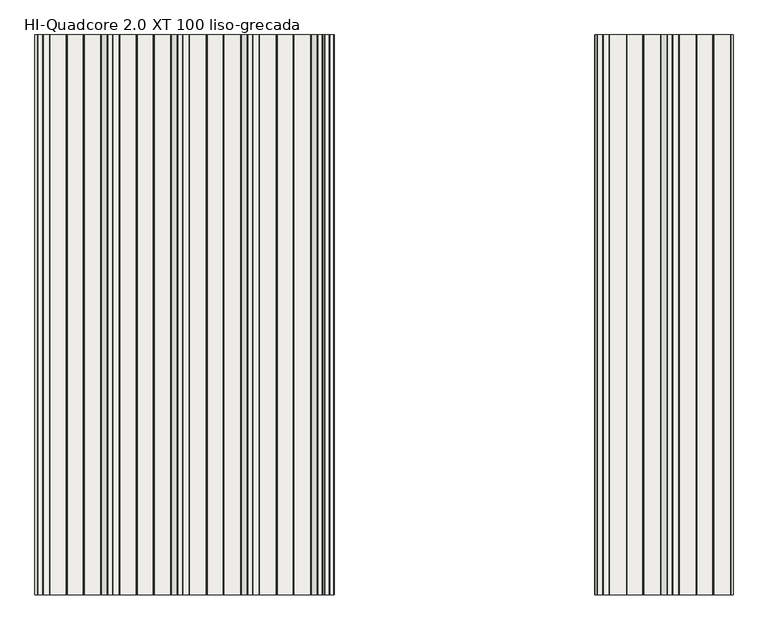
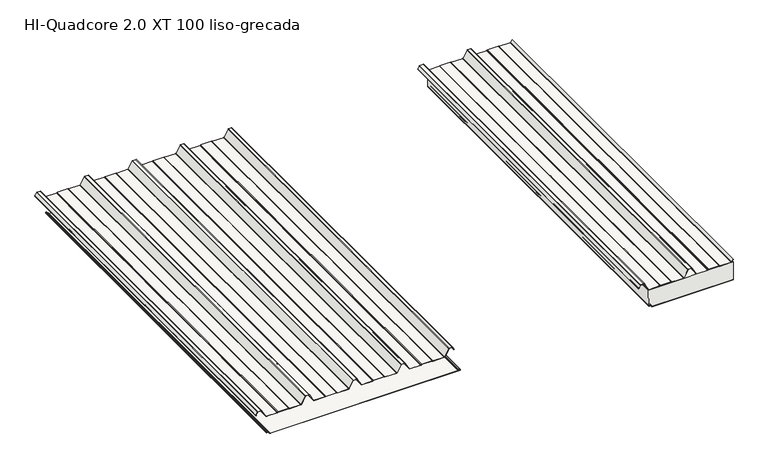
"""IFC4 building model written with IfcOpenShell, lengths in millimetres: slab geometry, HI_QuadCore2.0XT-XT DUAL : HI-Quadcore 2.0 XT 100 liso-grecada."""

from ifc_helpers import new_model, si_unit, point, frame, frame_2d, origin, place, context, project, spatial, polyline, circle_curve, trimmed, segment, composite_curve, outline, extrude, source, transform, mapped, element, save
from ifc_brep_helpers import plane_surface, cylinder_surface, revolved_surface, advanced_brep


def hi_quadcore_2_0_xt_100_liso_grecada_bb893d0f(model_context):
    return source(origin(), model_context, "Body", "SolidModel", [
        extrude(outline(composite_curve([segment(polyline([(138.1649405, 2138.5141429), (123.6579587, 2130.3539656)]), True, "CONTINUOUS"), segment(trimmed(circle_curve(frame_2d((123.0451321, 2131.443435)), 1.25), [point((123.6579587, 2130.3539656))], [point((122.689225, 2132.6416963))], False, "CARTESIAN"), True, "CONTINUOUS"), segment(polyline([(122.689225, 2132.6416963), (125.7359115, 2133.437141), (125.9380053, 2132.663088), (122.9074492, 2131.8718547)]), True, "CONTINUOUS"), segment(trimmed(circle_curve(frame_2d((123.0451321, 2131.443435)), 0.45), [point((122.9074492, 2131.8718547))], [point((123.2657497, 2131.051226))], True, "CARTESIAN"), True, "CONTINUOUS"), segment(polyline([(123.2657497, 2131.051226), (137.7727315, 2139.2114033)]), True, "CONTINUOUS"), segment(trimmed(circle_curve(frame_2d((136.4, 2141.6518148)), 2.8), [point((137.7727315, 2139.2114033))], [point((139.2, 2141.6518148))], True, "CARTESIAN"), True, "CONTINUOUS"), segment(polyline([(139.2, 2141.6518148), (139.2, 2158.9311117)]), True, "CONTINUOUS"), segment(trimmed(circle_curve(frame_2d((136.4, 2158.9311117)), 2.8), [point((139.2, 2158.9311117))], [point((137.5457267, 2161.4859719))], True, "CARTESIAN"), True, "CONTINUOUS"), segment(polyline([(137.5457267, 2161.4859719), (101.2048889, 2181.3052775)]), True, "CONTINUOUS"), segment(trimmed(circle_curve(frame_2d((103.0, 2184.6545425)), 3.8), [point((101.2048889, 2181.3052775))], [point((99.2, 2184.6545425))], False, "CARTESIAN"), True, "CONTINUOUS"), segment(polyline([(99.2, 2184.6545425), (99.2, 2242.4489557)]), True, "CONTINUOUS"), segment(trimmed(circle_curve(frame_2d((103.0, 2242.4489557)), 3.8), [point((99.2, 2242.4489557))], [point((99.6973596, 2244.328468))], False, "CARTESIAN"), True, "CONTINUOUS"), segment(polyline([(99.6973596, 2244.328468), (100.912055, 2246.4629056)]), True, "CONTINUOUS"), segment(trimmed(circle_curve(frame_2d((99.0, 2247.5510443)), 2.2), [point((100.912055, 2246.4629056))], [point((101.2, 2247.5510443))], True, "CARTESIAN"), True, "CONTINUOUS"), segment(polyline([(101.2, 2247.5510443), (101.2, 2302.4489557)]), True, "CONTINUOUS"), segment(trimmed(circle_curve(frame_2d((99.0, 2302.4489557)), 2.2), [point((101.2, 2302.4489557))], [point((100.912055, 2303.5370944))], True, "CARTESIAN"), True, "CONTINUOUS"), segment(polyline([(100.912055, 2303.5370944), (99.6973596, 2305.671532)]), True, "CONTINUOUS"), segment(trimmed(circle_curve(frame_2d((103.0, 2307.5510443)), 3.8), [point((99.6973596, 2305.671532))], [point((99.2, 2307.5510443))], False, "CARTESIAN"), True, "CONTINUOUS"), segment(polyline([(99.2, 2307.5510443), (99.2, 2365.7454575)]), True, "CONTINUOUS"), segment(trimmed(circle_curve(frame_2d((103.0, 2365.7454575)), 3.8), [point((99.2, 2365.7454575))], [point((101.1370073, 2369.0574446))], False, "CARTESIAN"), True, "CONTINUOUS"), segment(polyline([(101.1370073, 2369.0574446), (138.0785747, 2389.8370763)]), True, "CONTINUOUS"), segment(trimmed(circle_curve(frame_2d((137.0, 2391.7545425)), 2.2), [point((138.0785747, 2389.8370763))], [point((139.2, 2391.7545425))], True, "CARTESIAN"), True, "CONTINUOUS"), segment(polyline([(139.2, 2391.7545425), (139.2, 2408.2454575)]), True, "CONTINUOUS"), segment(trimmed(circle_curve(frame_2d((137.0, 2408.2454575)), 2.2), [point((139.2, 2408.2454575))], [point((138.0785747, 2410.1629237))], True, "CARTESIAN"), True, "CONTINUOUS"), segment(polyline([(138.0785747, 2410.1629237), (101.1370073, 2430.9425554)]), True, "CONTINUOUS"), segment(trimmed(circle_curve(frame_2d((103.0, 2434.2545425)), 3.8), [point((101.1370073, 2430.9425554))], [point((99.2, 2434.2545425))], False, "CARTESIAN"), True, "CONTINUOUS"), segment(polyline([(99.2, 2434.2545425), (99.2, 2492.4489557)]), True, "CONTINUOUS"), segment(trimmed(circle_curve(frame_2d((103.0, 2492.4489557)), 3.8), [point((99.2, 2492.4489557))], [point((99.6973596, 2494.328468))], False, "CARTESIAN"), True, "CONTINUOUS"), segment(polyline([(99.6973596, 2494.328468), (100.912055, 2496.4629056)]), True, "CONTINUOUS"), segment(trimmed(circle_curve(frame_2d((99.0, 2497.5510443)), 2.2), [point((100.912055, 2496.4629056))], [point((101.2, 2497.5510443))], True, "CARTESIAN"), True, "CONTINUOUS"), segment(polyline([(101.2, 2497.5510443), (101.2, 2552.4489557)]), True, "CONTINUOUS"), segment(trimmed(circle_curve(frame_2d((99.0, 2552.4489557)), 2.2), [point((101.2, 2552.4489557))], [point((100.912055, 2553.5370944))], True, "CARTESIAN"), True, "CONTINUOUS"), segment(polyline([(100.912055, 2553.5370944), (99.6973596, 2555.671532)]), True, "CONTINUOUS"), segment(trimmed(circle_curve(frame_2d((103.0, 2557.5510443)), 3.8), [point((99.6973596, 2555.671532))], [point((99.2, 2557.5510443))], False, "CARTESIAN"), True, "CONTINUOUS"), segment(polyline([(99.2, 2557.5510443), (99.2, 2615.7454575)]), True, "CONTINUOUS"), segment(trimmed(circle_curve(frame_2d((103.0, 2615.7454575)), 3.8), [point((99.2, 2615.7454575))], [point((101.1370073, 2619.0574446))], False, "CARTESIAN"), True, "CONTINUOUS"), segment(polyline([(101.1370073, 2619.0574446), (111.5614334, 2624.9211843), (113.1932165, 2624.9211843), (101.5292163, 2618.3601842)]), True, "CONTINUOUS"), segment(trimmed(circle_curve(frame_2d((103.0, 2615.7454575)), 3.0), [point((101.5292163, 2618.3601842))], [point((100.0, 2615.7454575))], True, "CARTESIAN"), True, "CONTINUOUS"), segment(polyline([(100.0, 2615.7454575), (100.0, 2557.5510443)]), True, "CONTINUOUS"), segment(trimmed(circle_curve(frame_2d((103.0, 2557.5510443)), 3.0), [point((100.0, 2557.5510443))], [point((100.3926523, 2556.0672188))], True, "CARTESIAN"), True, "CONTINUOUS"), segment(polyline([(100.3926523, 2556.0672188), (101.6073477, 2553.9327812)]), True, "CONTINUOUS"), segment(trimmed(circle_curve(frame_2d((99.0, 2552.4489557)), 3.0), [point((101.6073477, 2553.9327812))], [point((102.0, 2552.4489557))], False, "CARTESIAN"), True, "CONTINUOUS"), segment(polyline([(102.0, 2552.4489557), (102.0, 2497.5510443)]), True, "CONTINUOUS"), segment(trimmed(circle_curve(frame_2d((99.0, 2497.5510443)), 3.0), [point((102.0, 2497.5510443))], [point((101.6073477, 2496.0672188))], False, "CARTESIAN"), True, "CONTINUOUS"), segment(polyline([(101.6073477, 2496.0672188), (100.3926523, 2493.9327812)]), True, "CONTINUOUS"), segment(trimmed(circle_curve(frame_2d((103.0, 2492.4489557)), 3.0), [point((100.3926523, 2493.9327812))], [point((100.0, 2492.4489557))], True, "CARTESIAN"), True, "CONTINUOUS"), segment(polyline([(100.0, 2492.4489557), (100.0, 2434.2545425)]), True, "CONTINUOUS"), segment(trimmed(circle_curve(frame_2d((103.0, 2434.2545425)), 3.0), [point((100.0, 2434.2545425))], [point((101.5292163, 2431.6398158))], True, "CARTESIAN"), True, "CONTINUOUS"), segment(polyline([(101.5292163, 2431.6398158), (138.4707837, 2410.8601842)]), True, "CONTINUOUS"), segment(trimmed(circle_curve(frame_2d((137.0, 2408.2454575)), 3.0), [point((138.4707837, 2410.8601842))], [point((140.0, 2408.2454575))], False, "CARTESIAN"), True, "CONTINUOUS"), segment(polyline([(140.0, 2408.2454575), (140.0, 2391.7545425)]), True, "CONTINUOUS"), segment(trimmed(circle_curve(frame_2d((137.0, 2391.7545425)), 3.0), [point((140.0, 2391.7545425))], [point((138.4707837, 2389.1398158))], False, "CARTESIAN"), True, "CONTINUOUS"), segment(polyline([(138.4707837, 2389.1398158), (101.5292163, 2368.3601842)]), True, "CONTINUOUS"), segment(trimmed(circle_curve(frame_2d((103.0, 2365.7454575)), 3.0), [point((101.5292163, 2368.3601842))], [point((100.0, 2365.7454575))], True, "CARTESIAN"), True, "CONTINUOUS"), segment(polyline([(100.0, 2365.7454575), (100.0, 2307.5510443)]), True, "CONTINUOUS"), segment(trimmed(circle_curve(frame_2d((103.0, 2307.5510443)), 3.0), [point((100.0, 2307.5510443))], [point((100.3926523, 2306.0672188))], True, "CARTESIAN"), True, "CONTINUOUS"), segment(polyline([(100.3926523, 2306.0672188), (101.6073477, 2303.9327812)]), True, "CONTINUOUS"), segment(trimmed(circle_curve(frame_2d((99.0, 2302.4489557)), 3.0), [point((101.6073477, 2303.9327812))], [point((102.0, 2302.4489557))], False, "CARTESIAN"), True, "CONTINUOUS"), segment(polyline([(102.0, 2302.4489557), (102.0, 2247.5510443)]), True, "CONTINUOUS"), segment(trimmed(circle_curve(frame_2d((99.0, 2247.5510443)), 3.0), [point((102.0, 2247.5510443))], [point((101.6073477, 2246.0672188))], False, "CARTESIAN"), True, "CONTINUOUS"), segment(polyline([(101.6073477, 2246.0672188), (100.3926523, 2243.9327812)]), True, "CONTINUOUS"), segment(trimmed(circle_curve(frame_2d((103.0, 2242.4489557)), 3.0), [point((100.3926523, 2243.9327812))], [point((100.0, 2242.4489557))], True, "CARTESIAN"), True, "CONTINUOUS"), segment(polyline([(100.0, 2242.4489557), (100.0, 2184.6545425)]), True, "CONTINUOUS"), segment(trimmed(circle_curve(frame_2d((103.0, 2184.6545425)), 3.0), [point((100.0, 2184.6545425))], [point((101.5852209, 2182.0090935))], True, "CARTESIAN"), True, "CONTINUOUS"), segment(polyline([(101.5852209, 2182.0090935), (137.9031732, 2162.2022691)]), True, "CONTINUOUS"), segment(trimmed(circle_curve(frame_2d((136.4, 2158.9311117)), 3.6), [point((137.9031732, 2162.2022691))], [point((140.0, 2158.9311117))], False, "CARTESIAN"), True, "CONTINUOUS"), segment(polyline([(140.0, 2158.9311117), (140.0, 2141.6518148)]), True, "CONTINUOUS"), segment(trimmed(circle_curve(frame_2d((136.4, 2141.6518148)), 3.6), [point((140.0, 2141.6518148))], [point((138.1649405, 2138.5141429))], False, "CARTESIAN"), True, "CONTINUOUS")], self_intersect=False)), frame((0.0, 0.0, 0.0), z_axis=(0.0, 1.0, 0.0), x_axis=(0.0, 0.0, 1.0)), (0.0, 0.0, 1.0), 2000.0),
        extrude(outline(composite_curve([segment(trimmed(circle_curve(frame_2d((11.9759207, 2187.8456418)), 2.0), [point((13.390095, 2186.4313891))], [point((11.9758652, 2185.8456418))], False, "CARTESIAN"), True, "CONTINUOUS"), segment(polyline([(11.9758652, 2185.8456418), (8.333684, 2185.8457428)]), True, "CONTINUOUS"), segment(trimmed(circle_curve(frame_2d((8.3337394, 2187.8457428)), 2.0), [point((8.333684, 2185.8457428))], [point((6.3390802, 2187.6996787))], False, "CARTESIAN"), True, "CONTINUOUS"), segment(polyline([(6.3390802, 2187.6996787), (5.5769243, 2198.1077232)]), True, "CONTINUOUS"), segment(trimmed(circle_curve(frame_2d((3.5874027, 2197.9032632)), 2.0), [point((5.5769243, 2198.1077232))], [point((3.5874582, 2199.9032632))], True, "CARTESIAN"), True, "CONTINUOUS"), segment(polyline([(3.5874582, 2199.9032632), (1.9861383, 2199.9033076)]), True, "CONTINUOUS"), segment(trimmed(circle_curve(frame_2d((1.9861938, 2201.9033076)), 2.0), [point((1.9861383, 2199.9033076))], [point((-0.0138062, 2201.903363))], False, "CARTESIAN"), True, "CONTINUOUS"), segment(polyline([(-0.0138062, 2201.903363), (-0.0020789, 2624.9211843), (0.7979211, 2624.9211843), (0.7861938, 2201.9033408)]), True, "CONTINUOUS"), segment(trimmed(circle_curve(frame_2d((1.9861938, 2201.9033076)), 1.2), [point((0.7861938, 2201.9033408))], [point((1.9861605, 2200.7033076))], True, "CARTESIAN"), True, "CONTINUOUS"), segment(polyline([(1.9861605, 2200.7033076), (3.5874804, 2200.7032632)]), True, "CONTINUOUS"), segment(trimmed(circle_curve(frame_2d((3.5874027, 2197.9032632)), 2.8), [point((3.5874804, 2200.7032632))], [point((6.3740035, 2198.1768616))], False, "CARTESIAN"), True, "CONTINUOUS"), segment(polyline([(6.3740035, 2198.1768616), (7.1369439, 2187.7581044)]), True, "CONTINUOUS"), segment(trimmed(circle_curve(frame_2d((8.3337394, 2187.8457428)), 1.2), [point((7.1369439, 2187.7581044))], [point((8.3337062, 2186.6457428))], True, "CARTESIAN"), True, "CONTINUOUS"), segment(polyline([(8.3337062, 2186.6457428), (11.9758874, 2186.6456418)]), True, "CONTINUOUS"), segment(trimmed(circle_curve(frame_2d((11.9759207, 2187.8456418)), 1.2), [point((11.9758874, 2186.6456418))], [point((12.8244253, 2186.9970902))], True, "CARTESIAN"), True, "CONTINUOUS"), segment(polyline([(12.8244253, 2186.9970902), (14.9306702, 2189.1032183), (15.4963556, 2188.5375329), (13.390095, 2186.4313891)]), True, "CONTINUOUS")], self_intersect=False)), frame((0.0, 0.0, 0.0), z_axis=(0.0, 1.0, 0.0), x_axis=(0.0, 0.0, 1.0)), (0.0, 0.0, 1.0), 2000.0),
        extrude(outline(composite_curve([segment(polyline([(14.9306702, 2189.1032183), (12.8244253, 2186.9970902)]), True, "CONTINUOUS"), segment(trimmed(circle_curve(frame_2d((11.9759207, 2187.8456418)), 1.2), [point((12.8244253, 2186.9970902))], [point((11.9758874, 2186.6456418))], False, "CARTESIAN"), True, "CONTINUOUS"), segment(polyline([(11.9758874, 2186.6456418), (8.3337062, 2186.6457428)]), True, "CONTINUOUS"), segment(trimmed(circle_curve(frame_2d((8.3337394, 2187.8457428)), 1.2), [point((8.3337062, 2186.6457428))], [point((7.1369439, 2187.7581044))], False, "CARTESIAN"), True, "CONTINUOUS"), segment(polyline([(7.1369439, 2187.7581044), (6.3740035, 2198.1768616)]), True, "CONTINUOUS"), segment(trimmed(circle_curve(frame_2d((3.5874027, 2197.9032632)), 2.8), [point((6.3740035, 2198.1768616))], [point((3.5874804, 2200.7032632))], True, "CARTESIAN"), True, "CONTINUOUS"), segment(polyline([(3.5874804, 2200.7032632), (1.9861605, 2200.7033076)]), True, "CONTINUOUS"), segment(trimmed(circle_curve(frame_2d((1.9861938, 2201.9033076)), 1.2), [point((1.9861605, 2200.7033076))], [point((0.7861938, 2201.9033408))], False, "CARTESIAN"), True, "CONTINUOUS"), segment(polyline([(0.7861938, 2201.9033408), (0.7979211, 2624.9211843), (98.0, 2624.9211843), (98.0, 2181.4127132), (7.0308356, 2184.4622222), (7.2414508, 2185.8457731), (11.9758652, 2185.8456418)]), True, "CONTINUOUS"), segment(trimmed(circle_curve(frame_2d((11.9759207, 2187.8456418)), 2.0), [point((11.9758652, 2185.8456418))], [point((13.390095, 2186.4313891))], True, "CARTESIAN"), True, "CONTINUOUS"), segment(polyline([(13.390095, 2186.4313891), (15.4963556, 2188.5375329), (14.9306702, 2189.1032183)]), True, "CONTINUOUS")], self_intersect=False)), frame((0.0, 0.0, 0.0), z_axis=(0.0, 1.0, 0.0), x_axis=(0.0, 0.0, 1.0)), (0.0, 0.0, 1.0), 2000.0),
        advanced_brep(
        [(186.4313891, 0.0, 13.3795578), (185.8456418, 0.0, 11.9654043), (185.8456037, 0.0, 8.2995811), (187.6996787, 0.0, 6.328543), (198.1077232, 0.0, 5.5663871), (199.9032632, 0.0, 3.5769209), (199.9033076, 0.0, 1.9756011), (201.903363, 0.0, -0.0243435), (1197.9162803, 0.0, 0.003269), (1199.9046779, 0.0, 2.0032908), (1199.904653, 0.0, 2.9012893), (1198.0077486, 0.0, 4.8985749), (1186.1928118, 0.0, 5.7933732), (1184.3438482, 0.0, 7.7876066), (1184.3437386, 0.0, 11.7402379), (1183.757913, 0.0, 13.1544352), (1182.3436602, 0.0, 14.5686095), (1181.7779748, 0.0, 14.0029241), (1183.1922433, 0.0, 12.5887341), (1183.5437386, 0.0, 11.7402157), (1183.5438482, 0.0, 7.7875844), (1186.1323972, 0.0, 4.9956577), (1197.958132, 0.0, 4.1000416), (1199.104653, 0.0, 2.9012672), (1199.1046779, 0.0, 2.0032686), (1197.9136554, 0.0, 0.8032689), (201.9033408, 0.0, 0.7756565), (200.7033076, 0.0, 1.9756233), (200.7032632, 0.0, 3.5769431), (198.1768616, 0.0, 6.3634663), (187.7581044, 0.0, 7.1264067), (186.6457428, 0.0, 8.3231689), (186.6456418, 0.0, 11.965396), (186.9970902, 0.0, 12.8138881), (189.1032183, 0.0, 14.920133), (188.5375329, 0.0, 15.4858184), (186.4313891, 2000.0, 13.3795578), (188.5375329, 2000.0, 15.4858184), (189.1032183, 2000.0, 14.920133), (186.9970902, 2000.0, 12.8138881), (186.6456418, 2000.0, 11.965396), (186.6456037, 2000.0, 8.2995728), (187.7581044, 2000.0, 7.1264067), (198.1768616, 2000.0, 6.3634663), (200.7032632, 2000.0, 3.5769431), (200.7033076, 2000.0, 1.9756233), (201.9033408, 2000.0, 0.7756565), (1197.9136554, 2000.0, 0.8032689), (1199.1046779, 2000.0, 2.0032686), (1199.104653, 2000.0, 2.9012672), (1197.958132, 2000.0, 4.1000416), (1186.1323972, 2000.0, 4.9956577), (1183.5438482, 2000.0, 7.7875844), (1183.5437386, 2000.0, 11.7402157), (1183.1922433, 2000.0, 12.5887341), (1181.7779748, 2000.0, 14.0029241), (1182.3436602, 2000.0, 14.5686095), (1183.757913, 2000.0, 13.1544352), (1184.3437386, 2000.0, 11.7402379), (1184.3438482, 2000.0, 7.7876066), (1186.1928118, 2000.0, 5.7933732), (1198.0077486, 2000.0, 4.8985749), (1199.904653, 2000.0, 2.9012893), (1199.9046779, 2000.0, 2.0032908), (1197.9162803, 2000.0, 0.003269), (201.903363, 2000.0, -0.0243435), (199.9033076, 2000.0, 1.9756011), (199.9032632, 2000.0, 3.5769209), (198.1077232, 2000.0, 5.5663871), (187.6996787, 2000.0, 6.328543), (185.8457428, 2000.0, 8.3231467), (185.8456418, 2000.0, 11.9654043)],
        [
            (0, 1, circle_curve(frame((187.8456418, 0.0, 11.9653834), z_axis=(0.0, -1.0, 0.0), x_axis=(1.0, 0.0, 0.0)), 2.0)),
            (1, 2),
            (2, 3, circle_curve(frame((187.8457428, 0.0, 8.3232022), z_axis=(0.0, -1.0, 0.0), x_axis=(1.0, 0.0, 0.0)), 2.0)),
            (3, 4),
            (4, 5, circle_curve(frame((197.9032632, 0.0, 3.5768655), z_axis=(0.0, 1.0, 0.0), x_axis=(1.0, 0.0, 0.0)), 2.0)),
            (5, 6),
            (6, 7, circle_curve(frame((201.9033076, 0.0, 1.9756565), z_axis=(0.0, -1.0, 0.0), x_axis=(1.0, 0.0, 0.0)), 2.0)),
            (7, 8),
            (8, 9, circle_curve(frame((1197.9046779, 0.0, 2.0032353), z_axis=(0.0, -1.0, 0.0), x_axis=(1.0, 0.0, 0.0)), 2.0)),
            (9, 10),
            (10, 11, circle_curve(frame((1197.904653, 0.0, 2.9012339), z_axis=(0.0, -1.0, 0.0), x_axis=(1.0, 0.0, 0.0)), 2.0)),
            (11, 12),
            (12, 13, circle_curve(frame((1186.3438482, 0.0, 7.7876621), z_axis=(0.0, 1.0, 0.0), x_axis=(1.0, 0.0, 0.0)), 2.0)),
            (13, 14),
            (14, 15, circle_curve(frame((1182.3437386, 0.0, 11.7401824), z_axis=(0.0, -1.0, 0.0), x_axis=(1.0, 0.0, 0.0)), 2.0)),
            (15, 16),
            (16, 17),
            (17, 18),
            (18, 19, circle_curve(frame((1182.3437386, 0.0, 11.7401824), z_axis=(0.0, 1.0, 0.0), x_axis=(1.0, 0.0, 0.0)), 1.2)),
            (19, 20),
            (20, 21, circle_curve(frame((1186.3438482, 0.0, 7.7876621), z_axis=(0.0, -1.0, 0.0), x_axis=(1.0, 0.0, 0.0)), 2.8)),
            (21, 22),
            (22, 23, circle_curve(frame((1197.904653, 0.0, 2.9012339), z_axis=(0.0, 1.0, 0.0), x_axis=(1.0, 0.0, 0.0)), 1.2)),
            (23, 24),
            (24, 25, circle_curve(frame((1197.9046779, 0.0, 2.0032353), z_axis=(0.0, 1.0, 0.0), x_axis=(1.0, 0.0, 0.0)), 1.2)),
            (25, 26),
            (26, 27, circle_curve(frame((201.9033076, 0.0, 1.9756565), z_axis=(0.0, 1.0, 0.0), x_axis=(1.0, 0.0, 0.0)), 1.2)),
            (27, 28),
            (28, 29, circle_curve(frame((197.9032632, 0.0, 3.5768655), z_axis=(0.0, -1.0, 0.0), x_axis=(1.0, 0.0, 0.0)), 2.8)),
            (29, 30),
            (30, 31, circle_curve(frame((187.8457428, 0.0, 8.3232022), z_axis=(0.0, 1.0, 0.0), x_axis=(1.0, 0.0, 0.0)), 1.2)),
            (31, 32),
            (32, 33, circle_curve(frame((187.8456418, 0.0, 11.9653834), z_axis=(0.0, 1.0, 0.0), x_axis=(1.0, 0.0, 0.0)), 1.2)),
            (33, 34),
            (34, 35),
            (35, 0),
            (36, 37),
            (37, 38),
            (38, 39),
            (39, 40, circle_curve(frame((187.8456418, 2000.0, 11.9653834), z_axis=(0.0, -1.0, 0.0), x_axis=(1.0, 0.0, 0.0)), 1.2)),
            (40, 41),
            (41, 42, circle_curve(frame((187.8457428, 2000.0, 8.3232022), z_axis=(0.0, -1.0, 0.0), x_axis=(1.0, 0.0, 0.0)), 1.2)),
            (42, 43),
            (43, 44, circle_curve(frame((197.9032632, 2000.0, 3.5768655), z_axis=(0.0, 1.0, 0.0), x_axis=(1.0, 0.0, 0.0)), 2.8)),
            (44, 45),
            (45, 46, circle_curve(frame((201.9033076, 2000.0, 1.9756565), z_axis=(0.0, -1.0, 0.0), x_axis=(1.0, 0.0, 0.0)), 1.2)),
            (46, 47),
            (47, 48, circle_curve(frame((1197.9046779, 2000.0, 2.0032353), z_axis=(0.0, -1.0, 0.0), x_axis=(1.0, 0.0, 0.0)), 1.2)),
            (48, 49),
            (49, 50, circle_curve(frame((1197.904653, 2000.0, 2.9012339), z_axis=(0.0, -1.0, 0.0), x_axis=(1.0, 0.0, 0.0)), 1.2)),
            (50, 51),
            (51, 52, circle_curve(frame((1186.3438482, 2000.0, 7.7876621), z_axis=(0.0, 1.0, 0.0), x_axis=(1.0, 0.0, 0.0)), 2.8)),
            (52, 53),
            (53, 54, circle_curve(frame((1182.3437386, 2000.0, 11.7401824), z_axis=(0.0, -1.0, 0.0), x_axis=(1.0, 0.0, 0.0)), 1.2)),
            (54, 55),
            (55, 56),
            (56, 57),
            (57, 58, circle_curve(frame((1182.3437386, 2000.0, 11.7401824), z_axis=(0.0, 1.0, 0.0), x_axis=(1.0, 0.0, 0.0)), 2.0)),
            (58, 59),
            (59, 60, circle_curve(frame((1186.3438482, 2000.0, 7.7876621), z_axis=(0.0, -1.0, 0.0), x_axis=(1.0, 0.0, 0.0)), 2.0)),
            (60, 61),
            (61, 62, circle_curve(frame((1197.904653, 2000.0, 2.9012339), z_axis=(0.0, 1.0, 0.0), x_axis=(1.0, 0.0, 0.0)), 2.0)),
            (62, 63),
            (63, 64, circle_curve(frame((1197.9046779, 2000.0, 2.0032353), z_axis=(0.0, 1.0, 0.0), x_axis=(1.0, 0.0, 0.0)), 2.0)),
            (64, 65),
            (65, 66, circle_curve(frame((201.9033076, 2000.0, 1.9756565), z_axis=(0.0, 1.0, 0.0), x_axis=(1.0, 0.0, 0.0)), 2.0)),
            (66, 67),
            (67, 68, circle_curve(frame((197.9032632, 2000.0, 3.5768655), z_axis=(0.0, -1.0, 0.0), x_axis=(1.0, 0.0, 0.0)), 2.0)),
            (68, 69),
            (69, 70, circle_curve(frame((187.8457428, 2000.0, 8.3232022), z_axis=(0.0, 1.0, 0.0), x_axis=(1.0, 0.0, 0.0)), 2.0)),
            (70, 71),
            (71, 36, circle_curve(frame((187.8456418, 2000.0, 11.9653834), z_axis=(0.0, 1.0, 0.0), x_axis=(1.0, 0.0, 0.0)), 2.0)),
            (0, 36),
            (71, 1),
            (70, 2),
            (69, 3),
            (68, 4),
            (67, 5),
            (66, 6),
            (65, 7),
            (64, 8),
            (63, 9),
            (62, 10),
            (61, 11),
            (60, 12),
            (59, 13),
            (58, 14),
            (57, 15),
            (56, 16),
            (55, 17),
            (54, 18),
            (53, 19),
            (52, 20),
            (51, 21),
            (50, 22),
            (49, 23),
            (48, 24),
            (47, 25),
            (46, 26),
            (45, 27),
            (44, 28),
            (43, 29),
            (42, 30),
            (41, 31),
            (40, 32),
            (39, 33),
            (38, 34),
            (37, 35),
        ],
        [
            plane_surface(frame((189.8456418, 0.0, 11.9653834), z_axis=(0.0, -1.0, 0.0), x_axis=(0.0, 0.0, 1.0))),
            plane_surface(frame((189.8456418, 2000.0, 11.9653834), z_axis=(0.0, 1.0, 0.0), x_axis=(0.0, 0.0, -1.0))),
            cylinder_surface(frame((187.8456418, 2000.0, 11.9653834), z_axis=(0.0, -1.0, 0.0), x_axis=(1.0, 0.0, 0.0)), 2.0),
            plane_surface(frame((185.8456418, 0.0, 11.9654043), z_axis=(-0.9999999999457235, 0.0, 1.041887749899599e-05), x_axis=(0.0, 1.0, 0.0))),
            cylinder_surface(frame((187.8457428, 2000.0, 8.3232022), z_axis=(0.0, -1.0, 0.0), x_axis=(1.0, 0.0, 0.0)), 2.0),
            plane_surface(frame((187.6996787, 0.0, 6.328543), z_axis=(-0.07303203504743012, 0.0, -0.9973295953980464), x_axis=(0.0, 1.0, 0.0))),
            revolved_surface(polyline([(199.9032632, 2000.0, 3.5768655), (199.9032632, 0.0, 3.5768655)]), (197.9032632, 2000.0, 3.5768655), (0.0, 1.0, 0.0)),
            plane_surface(frame((199.9032632, 0.0, 3.5769209), z_axis=(-0.9999999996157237, 0.0, -2.7722781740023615e-05), x_axis=(0.0, 1.0, 0.0))),
            cylinder_surface(frame((201.9033076, 2000.0, 1.9756565), z_axis=(0.0, -1.0, 0.0), x_axis=(1.0, 0.0, 0.0)), 2.0),
            plane_surface(frame((201.903363, 0.0, -0.0243435), z_axis=(2.772298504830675e-05, 0.0, -0.9999999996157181), x_axis=(0.0, 1.0, 0.0))),
            cylinder_surface(frame((1197.9046779, 2000.0, 2.0032353), z_axis=(0.0, -1.0, 0.0), x_axis=(1.0, 0.0, 0.0)), 2.0),
            plane_surface(frame((1199.9046779, 0.0, 2.0032908), z_axis=(0.9999999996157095, 0.0, 2.7723295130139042e-05), x_axis=(0.0, 1.0, 0.0))),
            cylinder_surface(frame((1197.904653, 2000.0, 2.9012339), z_axis=(0.0, -1.0, 0.0), x_axis=(1.0, 0.0, 0.0)), 2.0),
            plane_surface(frame((1198.0077486, 0.0, 4.8985749), z_axis=(0.07551822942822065, 0.0, 0.9971444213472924), x_axis=(0.0, 1.0, 0.0))),
            revolved_surface(polyline([(1188.3438482, 2000.0, 7.7876621), (1188.3438482, 0.0, 7.7876621)]), (1186.3438482, 2000.0, 7.7876621), (0.0, 1.0, 0.0)),
            plane_surface(frame((1184.3438482, 0.0, 7.7876066), z_axis=(0.9999999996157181, 0.0, 2.7722984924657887e-05), x_axis=(0.0, 1.0, 0.0))),
            cylinder_surface(frame((1182.3437386, 2000.0, 11.7401824), z_axis=(0.0, -1.0, 0.0), x_axis=(1.0, 0.0, 0.0)), 2.0),
            plane_surface(frame((1183.757913, 0.0, 13.1544352), z_axis=(0.7070871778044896, 0.0, 0.7071263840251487), x_axis=(0.0, 1.0, 0.0))),
            plane_surface(frame((1182.3436602, 0.0, 14.5686095), z_axis=(-0.7071067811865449, 0.0, 0.7071067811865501), x_axis=(0.0, 1.0, 0.0))),
            plane_surface(frame((1181.7779748, 0.0, 14.0029241), z_axis=(-0.7070871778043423, 0.0, -0.707126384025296), x_axis=(0.0, 1.0, 0.0))),
            revolved_surface(polyline([(1183.5437386, 2000.0, 11.7401824), (1183.5437386, 0.0, 11.7401824)]), (1182.3437386, 2000.0, 11.7401824), (0.0, 1.0, 0.0)),
            plane_surface(frame((1183.5437386, 0.0, 11.7402157), z_axis=(-0.9999999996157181, 0.0, -2.7722985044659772e-05), x_axis=(0.0, 1.0, 0.0))),
            cylinder_surface(frame((1186.3438482, 2000.0, 7.7876621), z_axis=(0.0, -1.0, 0.0), x_axis=(1.0, 0.0, 0.0)), 2.8),
            plane_surface(frame((1186.1323972, 0.0, 4.9956577), z_axis=(-0.07551822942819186, 0.0, -0.9971444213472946), x_axis=(0.0, 1.0, 0.0))),
            revolved_surface(polyline([(1199.104653, 2000.0, 2.9012339), (1199.104653, 0.0, 2.9012339)]), (1197.904653, 2000.0, 2.9012339), (0.0, 1.0, 0.0)),
            plane_surface(frame((1199.104653, 0.0, 2.9012672), z_axis=(-0.9999999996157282, 0.0, -2.7722622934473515e-05), x_axis=(0.0, 1.0, 0.0))),
            revolved_surface(polyline([(1199.1046779, 2000.0, 2.0032353), (1199.1046779, 0.0, 2.0032353)]), (1197.9046779, 2000.0, 2.0032353), (0.0, 1.0, 0.0)),
            plane_surface(frame((1197.9136554, 0.0, 0.8032689), z_axis=(-2.7722985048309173e-05, 0.0, 0.9999999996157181), x_axis=(0.0, 1.0, 0.0))),
            revolved_surface(polyline([(203.1033076, 2000.0, 1.9756565), (203.1033076, 0.0, 1.9756565)]), (201.9033076, 2000.0, 1.9756565), (0.0, 1.0, 0.0)),
            plane_surface(frame((200.7033076, 0.0, 1.9756233), z_axis=(0.9999999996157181, 0.0, 2.7722983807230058e-05), x_axis=(0.0, 1.0, 0.0))),
            cylinder_surface(frame((197.9032632, 2000.0, 3.5768655), z_axis=(0.0, -1.0, 0.0), x_axis=(1.0, 0.0, 0.0)), 2.8),
            plane_surface(frame((198.1768616, 0.0, 6.3634663), z_axis=(0.0730320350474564, 0.0, 0.9973295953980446), x_axis=(0.0, 1.0, 0.0))),
            revolved_surface(polyline([(189.0457428, 2000.0, 8.3232022), (189.0457428, 0.0, 8.3232022)]), (187.8457428, 2000.0, 8.3232022), (0.0, 1.0, 0.0)),
            plane_surface(frame((186.6456037, 0.0, 8.2995728), z_axis=(0.9999999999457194, 0.0, -1.0419274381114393e-05), x_axis=(0.0, 1.0, 0.0))),
            revolved_surface(polyline([(189.0456418, 2000.0, 11.9653834), (189.0456418, 0.0, 11.9653834)]), (187.8456418, 2000.0, 11.9653834), (0.0, 1.0, 0.0)),
            plane_surface(frame((186.9970902, 0.0, 12.8138881), z_axis=(0.7071263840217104, 0.0, -0.7070871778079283), x_axis=(0.0, 1.0, 0.0))),
            plane_surface(frame((189.1032183, 0.0, 14.920133), z_axis=(0.7071067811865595, 0.0, 0.7071067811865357), x_axis=(0.0, 1.0, 0.0))),
            plane_surface(frame((188.5375329, 0.0, 15.4858184), z_axis=(-0.7071263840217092, 0.0, 0.7070871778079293), x_axis=(0.0, 1.0, 0.0))),
        ],
        [
            (0, [[1, 2, 3, 4, 5, 6, 7, 8, 9, 10, 11, 12, 13, 14, 15, 16, 17, 18, 19, 20, 21, 22, 23, 24, 25, 26, 27, 28, 29, 30, 31, 32, 33, 34, 35, 36]]),
            (1, [[37, 38, 39, 40, 41, 42, 43, 44, 45, 46, 47, 48, 49, 50, 51, 52, 53, 54, 55, 56, 57, 58, 59, 60, 61, 62, 63, 64, 65, 66, 67, 68, 69, 70, 71, 72]]),
            (2, [[-1, 73, -72, 74]]),
            (3, [[-2, -74, -71, 75]]),
            (4, [[-3, -75, -70, 76]]),
            (5, [[-4, -76, -69, 77]]),
            (6, [[-5, -77, -68, 78]]),
            (7, [[-6, -78, -67, 79]]),
            (8, [[-7, -79, -66, 80]]),
            (9, [[-8, -80, -65, 81]]),
            (10, [[-9, -81, -64, 82]]),
            (11, [[-10, -82, -63, 83]]),
            (12, [[-11, -83, -62, 84]]),
            (13, [[-12, -84, -61, 85]]),
            (14, [[-13, -85, -60, 86]]),
            (15, [[-14, -86, -59, 87]]),
            (16, [[-15, -87, -58, 88]]),
            (17, [[-16, -88, -57, 89]]),
            (18, [[-17, -89, -56, 90]]),
            (19, [[-18, -90, -55, 91]]),
            (20, [[-19, -91, -54, 92]]),
            (21, [[-20, -92, -53, 93]]),
            (22, [[-21, -93, -52, 94]]),
            (23, [[-22, -94, -51, 95]]),
            (24, [[-23, -95, -50, 96]]),
            (25, [[-24, -96, -49, 97]]),
            (26, [[-25, -97, -48, 98]]),
            (27, [[-26, -98, -47, 99]]),
            (28, [[-27, -99, -46, 100]]),
            (29, [[-28, -100, -45, 101]]),
            (30, [[-29, -101, -44, 102]]),
            (31, [[-30, -102, -43, 103]]),
            (32, [[-31, -103, -42, 104]]),
            (33, [[-32, -104, -41, 105]]),
            (34, [[-33, -105, -40, 106]]),
            (35, [[-34, -106, -39, 107]]),
            (36, [[-35, -107, -38, 108]]),
            (37, [[-36, -108, -37, -73]]),
        ],
    ),
        extrude(outline(composite_curve([segment(polyline([(138.1649405, 138.5141429), (123.6579587, 130.3539656)]), True, "CONTINUOUS"), segment(trimmed(circle_curve(frame_2d((123.0451321, 131.443435)), 1.25), [point((123.6579587, 130.3539656))], [point((122.689225, 132.6416963))], False, "CARTESIAN"), True, "CONTINUOUS"), segment(polyline([(122.689225, 132.6416963), (125.7359115, 133.437141), (125.9380053, 132.663088), (122.9074492, 131.8718547)]), True, "CONTINUOUS"), segment(trimmed(circle_curve(frame_2d((123.0451321, 131.443435)), 0.45), [point((122.9074492, 131.8718547))], [point((123.2657497, 131.051226))], True, "CARTESIAN"), True, "CONTINUOUS"), segment(polyline([(123.2657497, 131.051226), (137.7727315, 139.2114033)]), True, "CONTINUOUS"), segment(trimmed(circle_curve(frame_2d((136.4, 141.6518148)), 2.8), [point((137.7727315, 139.2114033))], [point((139.2, 141.6518148))], True, "CARTESIAN"), True, "CONTINUOUS"), segment(polyline([(139.2, 141.6518148), (139.2, 158.9311117)]), True, "CONTINUOUS"), segment(trimmed(circle_curve(frame_2d((136.4, 158.9311117)), 2.8), [point((139.2, 158.9311117))], [point((137.5457267, 161.4859719))], True, "CARTESIAN"), True, "CONTINUOUS"), segment(polyline([(137.5457267, 161.4859719), (101.2048889, 181.3052775)]), True, "CONTINUOUS"), segment(trimmed(circle_curve(frame_2d((103.0, 184.6545425)), 3.8), [point((101.2048889, 181.3052775))], [point((99.2, 184.6545425))], False, "CARTESIAN"), True, "CONTINUOUS"), segment(polyline([(99.2, 184.6545425), (99.2, 242.4489557)]), True, "CONTINUOUS"), segment(trimmed(circle_curve(frame_2d((103.0, 242.4489557)), 3.8), [point((99.2, 242.4489557))], [point((99.6973596, 244.328468))], False, "CARTESIAN"), True, "CONTINUOUS"), segment(polyline([(99.6973596, 244.328468), (100.912055, 246.4629056)]), True, "CONTINUOUS"), segment(trimmed(circle_curve(frame_2d((99.0, 247.5510443)), 2.2), [point((100.912055, 246.4629056))], [point((101.2, 247.5510443))], True, "CARTESIAN"), True, "CONTINUOUS"), segment(polyline([(101.2, 247.5510443), (101.2, 302.4489557)]), True, "CONTINUOUS"), segment(trimmed(circle_curve(frame_2d((99.0, 302.4489557)), 2.2), [point((101.2, 302.4489557))], [point((100.912055, 303.5370944))], True, "CARTESIAN"), True, "CONTINUOUS"), segment(polyline([(100.912055, 303.5370944), (99.6973596, 305.671532)]), True, "CONTINUOUS"), segment(trimmed(circle_curve(frame_2d((103.0, 307.5510443)), 3.8), [point((99.6973596, 305.671532))], [point((99.2, 307.5510443))], False, "CARTESIAN"), True, "CONTINUOUS"), segment(polyline([(99.2, 307.5510443), (99.2, 365.7454575)]), True, "CONTINUOUS"), segment(trimmed(circle_curve(frame_2d((103.0, 365.7454575)), 3.8), [point((99.2, 365.7454575))], [point((101.1370073, 369.0574446))], False, "CARTESIAN"), True, "CONTINUOUS"), segment(polyline([(101.1370073, 369.0574446), (138.0785747, 389.8370763)]), True, "CONTINUOUS"), segment(trimmed(circle_curve(frame_2d((137.0, 391.7545425)), 2.2), [point((138.0785747, 389.8370763))], [point((139.2, 391.7545425))], True, "CARTESIAN"), True, "CONTINUOUS"), segment(polyline([(139.2, 391.7545425), (139.2, 408.2454575)]), True, "CONTINUOUS"), segment(trimmed(circle_curve(frame_2d((137.0, 408.2454575)), 2.2), [point((139.2, 408.2454575))], [point((138.0785747, 410.1629237))], True, "CARTESIAN"), True, "CONTINUOUS"), segment(polyline([(138.0785747, 410.1629237), (101.1370073, 430.9425554)]), True, "CONTINUOUS"), segment(trimmed(circle_curve(frame_2d((103.0, 434.2545425)), 3.8), [point((101.1370073, 430.9425554))], [point((99.2, 434.2545425))], False, "CARTESIAN"), True, "CONTINUOUS"), segment(polyline([(99.2, 434.2545425), (99.2, 492.4489557)]), True, "CONTINUOUS"), segment(trimmed(circle_curve(frame_2d((103.0, 492.4489557)), 3.8), [point((99.2, 492.4489557))], [point((99.6973596, 494.328468))], False, "CARTESIAN"), True, "CONTINUOUS"), segment(polyline([(99.6973596, 494.328468), (100.912055, 496.4629056)]), True, "CONTINUOUS"), segment(trimmed(circle_curve(frame_2d((99.0, 497.5510443)), 2.2), [point((100.912055, 496.4629056))], [point((101.2, 497.5510443))], True, "CARTESIAN"), True, "CONTINUOUS"), segment(polyline([(101.2, 497.5510443), (101.2, 552.4489557)]), True, "CONTINUOUS"), segment(trimmed(circle_curve(frame_2d((99.0, 552.4489557)), 2.2), [point((101.2, 552.4489557))], [point((100.912055, 553.5370944))], True, "CARTESIAN"), True, "CONTINUOUS"), segment(polyline([(100.912055, 553.5370944), (99.6973596, 555.671532)]), True, "CONTINUOUS"), segment(trimmed(circle_curve(frame_2d((103.0, 557.5510443)), 3.8), [point((99.6973596, 555.671532))], [point((99.2, 557.5510443))], False, "CARTESIAN"), True, "CONTINUOUS"), segment(polyline([(99.2, 557.5510443), (99.2, 615.7454575)]), True, "CONTINUOUS"), segment(trimmed(circle_curve(frame_2d((103.0, 615.7454575)), 3.8), [point((99.2, 615.7454575))], [point((101.1370073, 619.0574446))], False, "CARTESIAN"), True, "CONTINUOUS"), segment(polyline([(101.1370073, 619.0574446), (138.0785747, 639.8370763)]), True, "CONTINUOUS"), segment(trimmed(circle_curve(frame_2d((137.0, 641.7545425)), 2.2), [point((138.0785747, 639.8370763))], [point((139.2, 641.7545425))], True, "CARTESIAN"), True, "CONTINUOUS"), segment(polyline([(139.2, 641.7545425), (139.2, 658.2454575)]), True, "CONTINUOUS"), segment(trimmed(circle_curve(frame_2d((137.0, 658.2454575)), 2.2), [point((139.2, 658.2454575))], [point((138.0785747, 660.1629237))], True, "CARTESIAN"), True, "CONTINUOUS"), segment(polyline([(138.0785747, 660.1629237), (101.1370073, 680.9425554)]), True, "CONTINUOUS"), segment(trimmed(circle_curve(frame_2d((103.0, 684.2545425)), 3.8), [point((101.1370073, 680.9425554))], [point((99.2, 684.2545425))], False, "CARTESIAN"), True, "CONTINUOUS"), segment(polyline([(99.2, 684.2545425), (99.2, 742.4489557)]), True, "CONTINUOUS"), segment(trimmed(circle_curve(frame_2d((103.0, 742.4489557)), 3.8), [point((99.2, 742.4489557))], [point((99.6973596, 744.328468))], False, "CARTESIAN"), True, "CONTINUOUS"), segment(polyline([(99.6973596, 744.328468), (100.912055, 746.4629056)]), True, "CONTINUOUS"), segment(trimmed(circle_curve(frame_2d((99.0, 747.5510443)), 2.2), [point((100.912055, 746.4629056))], [point((101.2, 747.5510443))], True, "CARTESIAN"), True, "CONTINUOUS"), segment(polyline([(101.2, 747.5510443), (101.2, 802.4489557)]), True, "CONTINUOUS"), segment(trimmed(circle_curve(frame_2d((99.0, 802.4489557)), 2.2), [point((101.2, 802.4489557))], [point((100.912055, 803.5370944))], True, "CARTESIAN"), True, "CONTINUOUS"), segment(polyline([(100.912055, 803.5370944), (99.6973596, 805.671532)]), True, "CONTINUOUS"), segment(trimmed(circle_curve(frame_2d((103.0, 807.5510443)), 3.8), [point((99.6973596, 805.671532))], [point((99.2, 807.5510443))], False, "CARTESIAN"), True, "CONTINUOUS"), segment(polyline([(99.2, 807.5510443), (99.2, 865.7454575)]), True, "CONTINUOUS"), segment(trimmed(circle_curve(frame_2d((103.0, 865.7454575)), 3.8), [point((99.2, 865.7454575))], [point((101.1370073, 869.0574446))], False, "CARTESIAN"), True, "CONTINUOUS"), segment(polyline([(101.1370073, 869.0574446), (138.0785747, 889.8370763)]), True, "CONTINUOUS"), segment(trimmed(circle_curve(frame_2d((137.0, 891.7545425)), 2.2), [point((138.0785747, 889.8370763))], [point((139.2, 891.7545425))], True, "CARTESIAN"), True, "CONTINUOUS"), segment(polyline([(139.2, 891.7545425), (139.2, 908.2454575)]), True, "CONTINUOUS"), segment(trimmed(circle_curve(frame_2d((137.0, 908.2454575)), 2.2), [point((139.2, 908.2454575))], [point((138.0785747, 910.1629237))], True, "CARTESIAN"), True, "CONTINUOUS"), segment(polyline([(138.0785747, 910.1629237), (101.1370073, 930.9425554)]), True, "CONTINUOUS"), segment(trimmed(circle_curve(frame_2d((103.0, 934.2545425)), 3.8), [point((101.1370073, 930.9425554))], [point((99.2, 934.2545425))], False, "CARTESIAN"), True, "CONTINUOUS"), segment(polyline([(99.2, 934.2545425), (99.2, 992.4489557)]), True, "CONTINUOUS"), segment(trimmed(circle_curve(frame_2d((103.0, 992.4489557)), 3.8), [point((99.2, 992.4489557))], [point((99.6973596, 994.328468))], False, "CARTESIAN"), True, "CONTINUOUS"), segment(polyline([(99.6973596, 994.328468), (100.912055, 996.4629056)]), True, "CONTINUOUS"), segment(trimmed(circle_curve(frame_2d((99.0, 997.5510443)), 2.2), [point((100.912055, 996.4629056))], [point((101.2, 997.5510443))], True, "CARTESIAN"), True, "CONTINUOUS"), segment(polyline([(101.2, 997.5510443), (101.2, 1052.4489557)]), True, "CONTINUOUS"), segment(trimmed(circle_curve(frame_2d((99.0, 1052.4489557)), 2.2), [point((101.2, 1052.4489557))], [point((100.912055, 1053.5370944))], True, "CARTESIAN"), True, "CONTINUOUS"), segment(polyline([(100.912055, 1053.5370944), (99.6973596, 1055.671532)]), True, "CONTINUOUS"), segment(trimmed(circle_curve(frame_2d((103.0, 1057.5510443)), 3.8), [point((99.6973596, 1055.671532))], [point((99.2, 1057.5510443))], False, "CARTESIAN"), True, "CONTINUOUS"), segment(polyline([(99.2, 1057.5510443), (99.2, 1116.4208923)]), True, "CONTINUOUS"), segment(trimmed(circle_curve(frame_2d((103.0, 1116.4208923)), 3.8), [point((99.2, 1116.4208923))], [point((101.1583504, 1119.7447946))], False, "CARTESIAN"), True, "CONTINUOUS"), segment(polyline([(101.1583504, 1119.7447946), (138.0662182, 1140.1940602)]), True, "CONTINUOUS"), segment(trimmed(circle_curve(frame_2d((137.0, 1142.1184247)), 2.2), [point((138.0662182, 1140.1940602))], [point((139.2, 1142.1184247))], True, "CARTESIAN"), True, "CONTINUOUS"), segment(polyline([(139.2, 1142.1184247), (139.2, 1157.4945491)]), True, "CONTINUOUS"), segment(trimmed(circle_curve(frame_2d((137.0, 1157.4945491)), 2.2), [point((139.2, 1157.4945491))], [point((138.0785747, 1159.4120152))], True, "CARTESIAN"), True, "CONTINUOUS"), segment(polyline([(138.0785747, 1159.4120152), (127.5275176, 1165.3469849)]), True, "CONTINUOUS"), segment(trimmed(circle_curve(frame_2d((126.9392041, 1164.3010942)), 1.2), [point((127.5275176, 1165.3469849))], [point((126.3392623, 1165.3403583))], True, "CARTESIAN"), True, "CONTINUOUS"), segment(polyline([(126.3392623, 1165.3403583), (124.7281681, 1164.4103128), (124.3282068, 1165.1031555), (125.939301, 1166.033201)]), True, "CONTINUOUS"), segment(trimmed(circle_curve(frame_2d((126.9392041, 1164.3010942)), 2.0), [point((125.939301, 1166.033201))], [point((127.9197266, 1166.0442453))], False, "CARTESIAN"), True, "CONTINUOUS"), segment(polyline([(127.9197266, 1166.0442453), (138.4707837, 1160.1092757)]), True, "CONTINUOUS"), segment(trimmed(circle_curve(frame_2d((137.0, 1157.4945491)), 3.0), [point((138.4707837, 1160.1092757))], [point((140.0, 1157.4945491))], False, "CARTESIAN"), True, "CONTINUOUS"), segment(polyline([(140.0, 1157.4945491), (140.0, 1142.1184247)]), True, "CONTINUOUS"), segment(trimmed(circle_curve(frame_2d((137.0, 1142.1184247)), 3.0), [point((140.0, 1142.1184247))], [point((138.4539339, 1139.4942913))], False, "CARTESIAN"), True, "CONTINUOUS"), segment(polyline([(138.4539339, 1139.4942913), (101.5460661, 1119.0450257)]), True, "CONTINUOUS"), segment(trimmed(circle_curve(frame_2d((103.0, 1116.4208923)), 3.0), [point((101.5460661, 1119.0450257))], [point((100.0, 1116.4208923))], True, "CARTESIAN"), True, "CONTINUOUS"), segment(polyline([(100.0, 1116.4208923), (100.0, 1057.5510443)]), True, "CONTINUOUS"), segment(trimmed(circle_curve(frame_2d((103.0, 1057.5510443)), 3.0), [point((100.0, 1057.5510443))], [point((100.3926523, 1056.0672188))], True, "CARTESIAN"), True, "CONTINUOUS"), segment(polyline([(100.3926523, 1056.0672188), (101.6073477, 1053.9327812)]), True, "CONTINUOUS"), segment(trimmed(circle_curve(frame_2d((99.0, 1052.4489557)), 3.0), [point((101.6073477, 1053.9327812))], [point((102.0, 1052.4489557))], False, "CARTESIAN"), True, "CONTINUOUS"), segment(polyline([(102.0, 1052.4489557), (102.0, 997.5510443)]), True, "CONTINUOUS"), segment(trimmed(circle_curve(frame_2d((99.0, 997.5510443)), 3.0), [point((102.0, 997.5510443))], [point((101.6073477, 996.0672188))], False, "CARTESIAN"), True, "CONTINUOUS"), segment(polyline([(101.6073477, 996.0672188), (100.3926523, 993.9327812)]), True, "CONTINUOUS"), segment(trimmed(circle_curve(frame_2d((103.0, 992.4489557)), 3.0), [point((100.3926523, 993.9327812))], [point((100.0, 992.4489557))], True, "CARTESIAN"), True, "CONTINUOUS"), segment(polyline([(100.0, 992.4489557), (100.0, 934.2545425)]), True, "CONTINUOUS"), segment(trimmed(circle_curve(frame_2d((103.0, 934.2545425)), 3.0), [point((100.0, 934.2545425))], [point((101.5292163, 931.6398158))], True, "CARTESIAN"), True, "CONTINUOUS"), segment(polyline([(101.5292163, 931.6398158), (138.4707837, 910.8601842)]), True, "CONTINUOUS"), segment(trimmed(circle_curve(frame_2d((137.0, 908.2454575)), 3.0), [point((138.4707837, 910.8601842))], [point((140.0, 908.2454575))], False, "CARTESIAN"), True, "CONTINUOUS"), segment(polyline([(140.0, 908.2454575), (140.0, 891.7545425)]), True, "CONTINUOUS"), segment(trimmed(circle_curve(frame_2d((137.0, 891.7545425)), 3.0), [point((140.0, 891.7545425))], [point((138.4707837, 889.1398158))], False, "CARTESIAN"), True, "CONTINUOUS"), segment(polyline([(138.4707837, 889.1398158), (101.5292163, 868.3601842)]), True, "CONTINUOUS"), segment(trimmed(circle_curve(frame_2d((103.0, 865.7454575)), 3.0), [point((101.5292163, 868.3601842))], [point((100.0, 865.7454575))], True, "CARTESIAN"), True, "CONTINUOUS"), segment(polyline([(100.0, 865.7454575), (100.0, 807.5510443)]), True, "CONTINUOUS"), segment(trimmed(circle_curve(frame_2d((103.0, 807.5510443)), 3.0), [point((100.0, 807.5510443))], [point((100.3926523, 806.0672188))], True, "CARTESIAN"), True, "CONTINUOUS"), segment(polyline([(100.3926523, 806.0672188), (101.6073477, 803.9327812)]), True, "CONTINUOUS"), segment(trimmed(circle_curve(frame_2d((99.0, 802.4489557)), 3.0), [point((101.6073477, 803.9327812))], [point((102.0, 802.4489557))], False, "CARTESIAN"), True, "CONTINUOUS"), segment(polyline([(102.0, 802.4489557), (102.0, 747.5510443)]), True, "CONTINUOUS"), segment(trimmed(circle_curve(frame_2d((99.0, 747.5510443)), 3.0), [point((102.0, 747.5510443))], [point((101.6073477, 746.0672188))], False, "CARTESIAN"), True, "CONTINUOUS"), segment(polyline([(101.6073477, 746.0672188), (100.3926523, 743.9327812)]), True, "CONTINUOUS"), segment(trimmed(circle_curve(frame_2d((103.0, 742.4489557)), 3.0), [point((100.3926523, 743.9327812))], [point((100.0, 742.4489557))], True, "CARTESIAN"), True, "CONTINUOUS"), segment(polyline([(100.0, 742.4489557), (100.0, 684.2545425)]), True, "CONTINUOUS"), segment(trimmed(circle_curve(frame_2d((103.0, 684.2545425)), 3.0), [point((100.0, 684.2545425))], [point((101.5292163, 681.6398158))], True, "CARTESIAN"), True, "CONTINUOUS"), segment(polyline([(101.5292163, 681.6398158), (138.4707837, 660.8601842)]), True, "CONTINUOUS"), segment(trimmed(circle_curve(frame_2d((137.0, 658.2454575)), 3.0), [point((138.4707837, 660.8601842))], [point((140.0, 658.2454575))], False, "CARTESIAN"), True, "CONTINUOUS"), segment(polyline([(140.0, 658.2454575), (140.0, 641.7545425)]), True, "CONTINUOUS"), segment(trimmed(circle_curve(frame_2d((137.0, 641.7545425)), 3.0), [point((140.0, 641.7545425))], [point((138.4707837, 639.1398158))], False, "CARTESIAN"), True, "CONTINUOUS"), segment(polyline([(138.4707837, 639.1398158), (101.5292163, 618.3601842)]), True, "CONTINUOUS"), segment(trimmed(circle_curve(frame_2d((103.0, 615.7454575)), 3.0), [point((101.5292163, 618.3601842))], [point((100.0, 615.7454575))], True, "CARTESIAN"), True, "CONTINUOUS"), segment(polyline([(100.0, 615.7454575), (100.0, 557.5510443)]), True, "CONTINUOUS"), segment(trimmed(circle_curve(frame_2d((103.0, 557.5510443)), 3.0), [point((100.0, 557.5510443))], [point((100.3926523, 556.0672188))], True, "CARTESIAN"), True, "CONTINUOUS"), segment(polyline([(100.3926523, 556.0672188), (101.6073477, 553.9327812)]), True, "CONTINUOUS"), segment(trimmed(circle_curve(frame_2d((99.0, 552.4489557)), 3.0), [point((101.6073477, 553.9327812))], [point((102.0, 552.4489557))], False, "CARTESIAN"), True, "CONTINUOUS"), segment(polyline([(102.0, 552.4489557), (102.0, 497.5510443)]), True, "CONTINUOUS"), segment(trimmed(circle_curve(frame_2d((99.0, 497.5510443)), 3.0), [point((102.0, 497.5510443))], [point((101.6073477, 496.0672188))], False, "CARTESIAN"), True, "CONTINUOUS"), segment(polyline([(101.6073477, 496.0672188), (100.3926523, 493.9327812)]), True, "CONTINUOUS"), segment(trimmed(circle_curve(frame_2d((103.0, 492.4489557)), 3.0), [point((100.3926523, 493.9327812))], [point((100.0, 492.4489557))], True, "CARTESIAN"), True, "CONTINUOUS"), segment(polyline([(100.0, 492.4489557), (100.0, 434.2545425)]), True, "CONTINUOUS"), segment(trimmed(circle_curve(frame_2d((103.0, 434.2545425)), 3.0), [point((100.0, 434.2545425))], [point((101.5292163, 431.6398158))], True, "CARTESIAN"), True, "CONTINUOUS"), segment(polyline([(101.5292163, 431.6398158), (138.4707837, 410.8601842)]), True, "CONTINUOUS"), segment(trimmed(circle_curve(frame_2d((137.0, 408.2454575)), 3.0), [point((138.4707837, 410.8601842))], [point((140.0, 408.2454575))], False, "CARTESIAN"), True, "CONTINUOUS"), segment(polyline([(140.0, 408.2454575), (140.0, 391.7545425)]), True, "CONTINUOUS"), segment(trimmed(circle_curve(frame_2d((137.0, 391.7545425)), 3.0), [point((140.0, 391.7545425))], [point((138.4707837, 389.1398158))], False, "CARTESIAN"), True, "CONTINUOUS"), segment(polyline([(138.4707837, 389.1398158), (101.5292163, 368.3601842)]), True, "CONTINUOUS"), segment(trimmed(circle_curve(frame_2d((103.0, 365.7454575)), 3.0), [point((101.5292163, 368.3601842))], [point((100.0, 365.7454575))], True, "CARTESIAN"), True, "CONTINUOUS"), segment(polyline([(100.0, 365.7454575), (100.0, 307.5510443)]), True, "CONTINUOUS"), segment(trimmed(circle_curve(frame_2d((103.0, 307.5510443)), 3.0), [point((100.0, 307.5510443))], [point((100.3926523, 306.0672188))], True, "CARTESIAN"), True, "CONTINUOUS"), segment(polyline([(100.3926523, 306.0672188), (101.6073477, 303.9327812)]), True, "CONTINUOUS"), segment(trimmed(circle_curve(frame_2d((99.0, 302.4489557)), 3.0), [point((101.6073477, 303.9327812))], [point((102.0, 302.4489557))], False, "CARTESIAN"), True, "CONTINUOUS"), segment(polyline([(102.0, 302.4489557), (102.0, 247.5510443)]), True, "CONTINUOUS"), segment(trimmed(circle_curve(frame_2d((99.0, 247.5510443)), 3.0), [point((102.0, 247.5510443))], [point((101.6073477, 246.0672188))], False, "CARTESIAN"), True, "CONTINUOUS"), segment(polyline([(101.6073477, 246.0672188), (100.3926523, 243.9327812)]), True, "CONTINUOUS"), segment(trimmed(circle_curve(frame_2d((103.0, 242.4489557)), 3.0), [point((100.3926523, 243.9327812))], [point((100.0, 242.4489557))], True, "CARTESIAN"), True, "CONTINUOUS"), segment(polyline([(100.0, 242.4489557), (100.0, 184.6545425)]), True, "CONTINUOUS"), segment(trimmed(circle_curve(frame_2d((103.0, 184.6545425)), 3.0), [point((100.0, 184.6545425))], [point((101.5852209, 182.0090935))], True, "CARTESIAN"), True, "CONTINUOUS"), segment(polyline([(101.5852209, 182.0090935), (137.9031732, 162.2022691)]), True, "CONTINUOUS"), segment(trimmed(circle_curve(frame_2d((136.4, 158.9311117)), 3.6), [point((137.9031732, 162.2022691))], [point((140.0, 158.9311117))], False, "CARTESIAN"), True, "CONTINUOUS"), segment(polyline([(140.0, 158.9311117), (140.0, 141.6518148)]), True, "CONTINUOUS"), segment(trimmed(circle_curve(frame_2d((136.4, 141.6518148)), 3.6), [point((140.0, 141.6518148))], [point((138.1649405, 138.5141429))], False, "CARTESIAN"), True, "CONTINUOUS")], self_intersect=False)), frame((0.0, 0.0, 0.0), z_axis=(0.0, 1.0, 0.0), x_axis=(0.0, 0.0, 1.0)), (0.0, 0.0, 1.0), 2000.0),
    ])


if __name__ == "__main__":
    model = new_model("IFC4")
    model_context = context("Model", 3, world=origin())
    ifc_project = project(units=[si_unit("LENGTHUNIT", "METRE", prefix="MILLI")], contexts=[model_context])
    site = spatial("IfcSite", under=ifc_project)
    building = spatial("IfcBuilding", under=site)
    placement = place(None, origin())
    hi_quadcore_2_0_xt_100_liso_grecada_shape = hi_quadcore_2_0_xt_100_liso_grecada_bb893d0f(model_context)
    element("IfcSlab", 1, ObjectType="HI_QuadCore2.0XT-XT DUAL : HI-Quadcore 2.0 XT 100 liso-grecada", at=placement, inside=building, context=model_context, shape_type="MappedRepresentation", body=[
        mapped(hi_quadcore_2_0_xt_100_liso_grecada_shape, transform((0.0, 0.0, 0.0), x_axis=(1.0, 0.0, 0.0), y_axis=(0.0, 1.0, 0.0), z_axis=(0.0, 0.0, 1.0))),
    ])
    save(model, "model.ifc")
